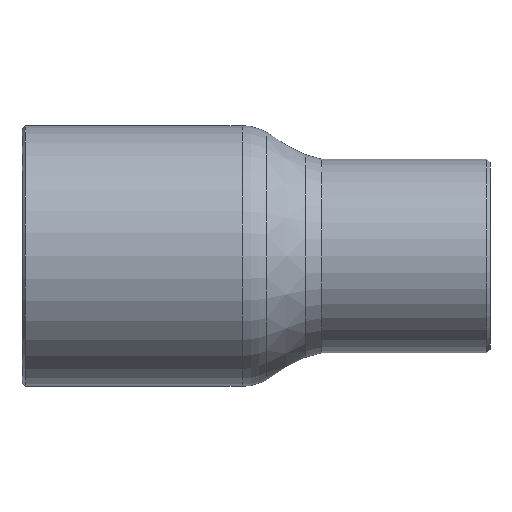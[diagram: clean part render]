
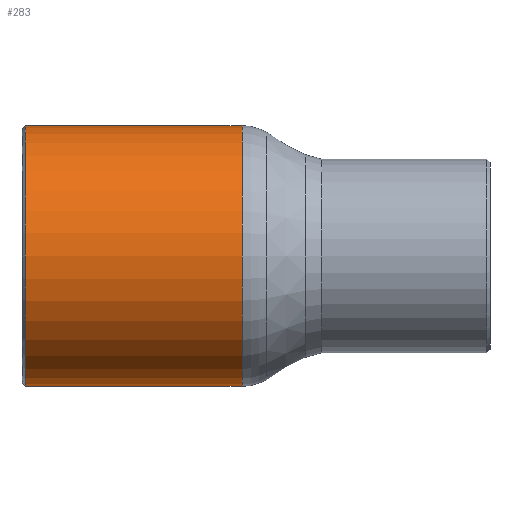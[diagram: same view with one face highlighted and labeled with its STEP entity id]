
A CAD part, front view. The second image highlights one B-rep face of the part: STEP entity #283.
In plain terms, the highlighted cylindrical face has radius 7.938 mm (diameter 15.875 mm), a full revolution.
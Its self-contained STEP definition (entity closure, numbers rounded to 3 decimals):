
#252=CARTESIAN_POINT('',(-19.7,7.938,0.));
#253=VERTEX_POINT('',#252);
#254=CARTESIAN_POINT('',(-19.7,0.0,0.0));
#255=DIRECTION('',(-1.0,0.0,0.0));
#256=DIRECTION('',(0.0,-1.0,0.0));
#257=AXIS2_PLACEMENT_3D('',#254,#255,#256);
#258=CIRCLE('',#257,7.938);
#259=EDGE_CURVE('',#253,#253,#258,.T.);
#264=CARTESIAN_POINT('',(-13.2,0.0,0.0));
#265=DIRECTION('',(1.0,0.0,0.0));
#266=DIRECTION('',(0.0,1.0,0.0));
#267=AXIS2_PLACEMENT_3D('',#264,#265,#266);
#268=CYLINDRICAL_SURFACE('',#267,7.938);
#269=CARTESIAN_POINT('',(-6.5,7.938,0.0));
#270=VERTEX_POINT('',#269);
#271=CARTESIAN_POINT('',(-6.5,0.0,0.0));
#272=DIRECTION('',(1.0,0.0,0.0));
#273=DIRECTION('',(0.0,1.0,0.0));
#274=AXIS2_PLACEMENT_3D('',#271,#272,#273);
#275=CIRCLE('',#274,7.938);
#276=EDGE_CURVE('',#270,#270,#275,.T.);
#277=ORIENTED_EDGE('',*,*,#276,.F.);
#278=EDGE_LOOP('',(#277));
#279=FACE_OUTER_BOUND('',#278,.T.);
#280=ORIENTED_EDGE('',*,*,#259,.F.);
#281=EDGE_LOOP('',(#280));
#282=FACE_BOUND('',#281,.T.);
#283=ADVANCED_FACE('',(#279,#282),#268,.T.);
